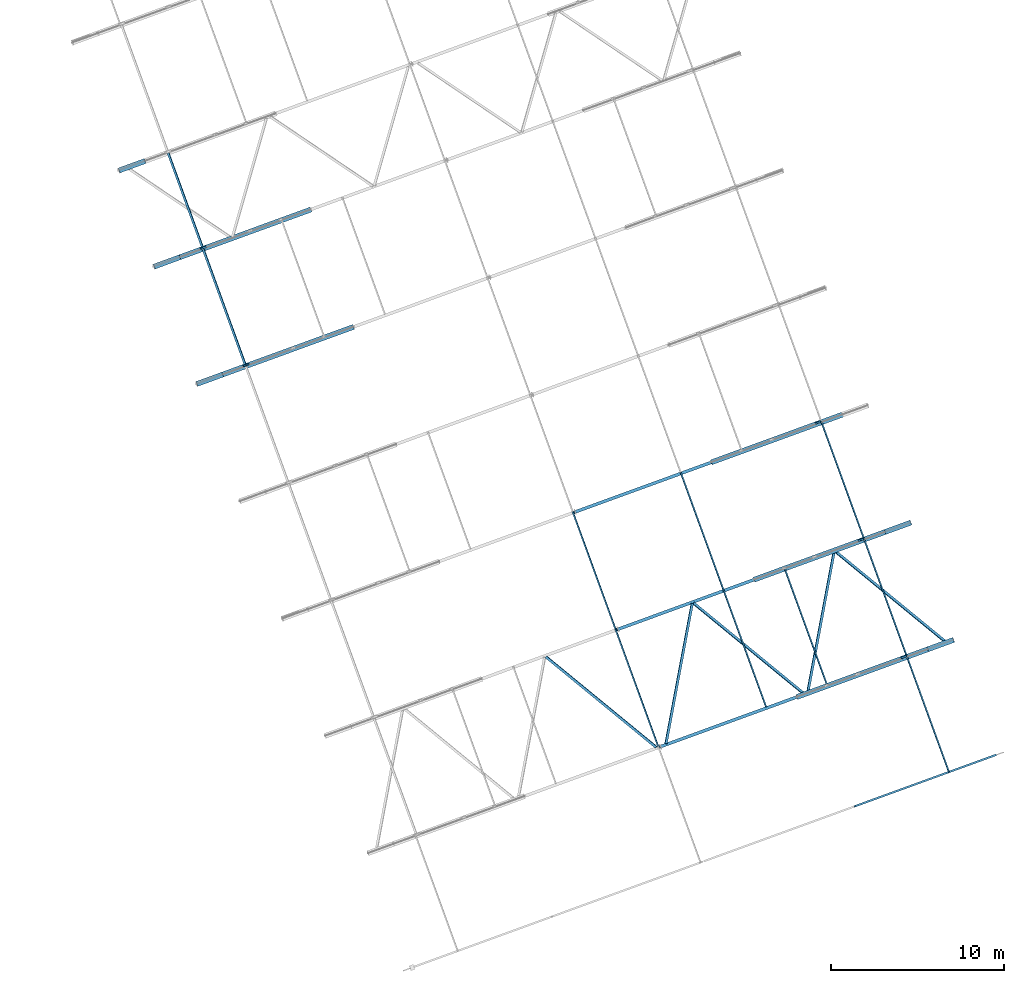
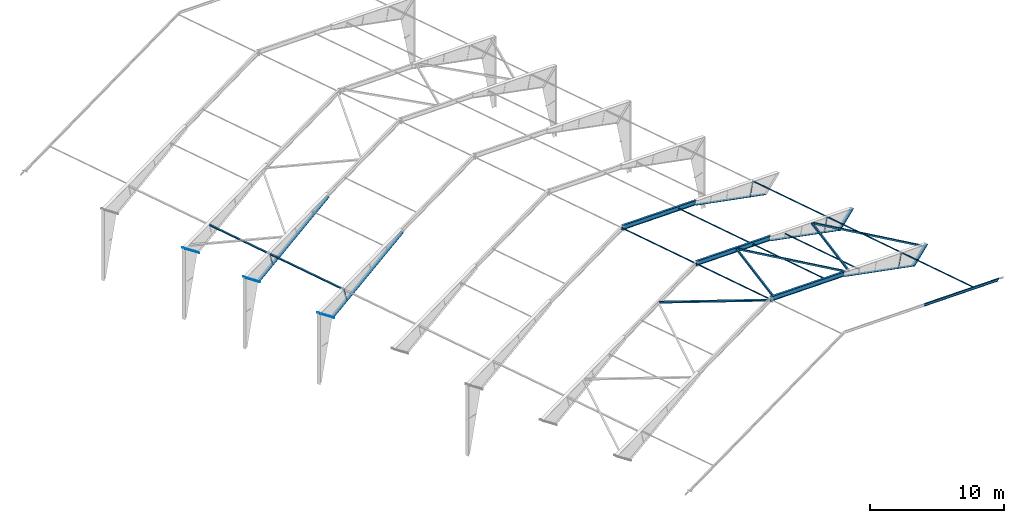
# One storey, part 2 of 17: 20 members, 19 beams, 4 openings, 39 elements without a shape of their own.
"""IFC4 building model written with IfcOpenShell, lengths in millimetres."""

from ifc_helpers import new_model, si_unit, direction, frame, origin_with_axes, place, context, subcontext, project, spatial, line, indexed_curve, outline, extrude, material, element, aggregate, save


model = new_model("IFC4")

# Units and contexts
model_context = context("Model", 3, precision=0.2, world=frame((203566.813, 116264.779, 0.0), z_axis=(0.0, 0.0, 1.0), x_axis=(1.0, 0.0, 0.0)), true_north=direction((-0.9396138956, -0.3422363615)))
body_context = subcontext(model_context, "Body", "Model", "MODEL_VIEW")
ifc_project = project(units=[si_unit("LENGTHUNIT", "METRE", prefix="MILLI"), si_unit("AREAUNIT", "SQUARE_METRE"), si_unit("VOLUMEUNIT", "CUBIC_METRE"), si_unit("MASSUNIT", "GRAM", prefix="KILO"), si_unit("TIMEUNIT", "SECOND"), si_unit("PLANEANGLEUNIT", "RADIAN"), si_unit("SOLIDANGLEUNIT", "STERADIAN"), si_unit("THERMODYNAMICTEMPERATUREUNIT", "DEGREE_CELSIUS"), si_unit("LUMINOUSINTENSITYUNIT", "LUMEN")], contexts=[model_context])

# Site, building, storey
site_placement = place(None, origin_with_axes())
site = spatial("IfcSite", under=ifc_project, at=site_placement, Name="Nobelprojektet", CompositionType="ELEMENT")
building_placement = place(site_placement, origin_with_axes())
building = spatial("IfcBuilding", under=site, at=building_placement, Name="Hall B", CompositionType="ELEMENT")
storey_placement = place(building_placement, frame((0.0, 0.0, 136000.0), z_axis=(0.0, 0.0, 1.0), x_axis=(1.0, 0.0, 0.0)))
storey = spatial("IfcBuildingStorey", under=building, at=storey_placement, Name="Plan_2", CompositionType="ELEMENT", Elevation=136000.0)

# Assembly, member
assembly_1_placement = place(storey_placement, frame((181809.68683, 131983.03909, 3646.88647), z_axis=(-0.5718109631, -0.2082717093, 0.7935081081), x_axis=(-0.7455910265, -0.2715679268, -0.6085596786)))
assembly_1 = element("IfcElementAssembly", 1, at=assembly_1_placement, inside=storey, Name="BEF. STOMME", PredefinedType="NOTDEFINED")
ifc_material = material(Name="S355J2", Category="STEEL")
member_1_placement = place(assembly_1_placement, origin_with_axes())
member_1 = element("IfcMember", 2, at=member_1_placement, material=ifc_material, Name="BEF. STOMME", PredefinedType="NOTDEFINED", context=body_context, shape_type="SolidModel", body=[
    extrude(outline(indexed_curve([(-12.5, -150.0), (12.5, -150.0), (12.5, 150.0), (-12.5, 150.0)], segments=[line(1, 2, 3, 4, 1)])), frame((0.0, 0.0, 0.0), z_axis=(-1.0, 0.0, 0.0), x_axis=(0.0, 0.0, 1.0)), (0.0, 0.0, -1.0), 1980.00858),
])
aggregate(assembly_1, [member_1])

assembly_2_placement = place(storey_placement, frame((181795.39531, 131977.83366, 3666.72647), z_axis=(-0.5718109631, -0.2082717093, 0.7935081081), x_axis=(-0.7455910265, -0.2715679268, -0.6085596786)))
assembly_2 = element("IfcElementAssembly", 3, at=assembly_2_placement, inside=storey, Name="BEF. STOMME", PredefinedType="NOTDEFINED")
member_2_placement = place(assembly_2_placement, origin_with_axes())
member_2 = element("IfcMember", 4, at=member_2_placement, material=ifc_material, Name="BEF. STOMME", PredefinedType="NOTDEFINED", context=body_context, shape_type="SolidModel", body=[
    extrude(outline(indexed_curve([(-12.5, -150.0), (12.5, -150.0), (12.5, 150.0), (-12.5, 150.0)], segments=[line(1, 2, 3, 4, 1)])), frame((0.0, 0.0, 0.0), z_axis=(-1.0, 0.0, 0.0), x_axis=(0.0, 0.0, 1.0)), (0.0, 0.0, -1.0), 1980.00858),
])
aggregate(assembly_2, [member_2])

assembly_3_placement = place(storey_placement, frame((180334.37257, 131445.68279, 2495.62175), z_axis=(0.3620433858, 0.131867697, 0.9227868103), x_axis=(-0.8670630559, -0.315811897, 0.385310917)))
assembly_3 = element("IfcElementAssembly", 5, at=assembly_3_placement, inside=storey, Name="BEF. STOMME", PredefinedType="NOTDEFINED")
member_3_placement = place(assembly_3_placement, origin_with_axes())
member_3 = element("IfcMember", 6, at=member_3_placement, material=ifc_material, Name="BEF. STOMME", PredefinedType="NOTDEFINED", context=body_context, shape_type="SolidModel", body=[
    extrude(outline(indexed_curve([(-10.0, -150.0), (10.0, -150.0), (10.0, 150.0), (-10.0, 150.0)], segments=[line(1, 2, 3, 4, 1)])), frame((0.0, 0.0, 0.0), z_axis=(-1.0, 0.0, 0.0), x_axis=(0.0, 0.0, 1.0)), (0.0, 0.0, -1.0), 8726.68705),
])
aggregate(assembly_3, [member_3])

# Assembly, beam, voiding feature
assembly_4_placement = place(storey_placement, frame((172815.23266, 128706.97329, 6043.94632), z_axis=(0.3422371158, -0.9396136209, 1.3e-09), x_axis=(-0.9075966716, -0.3305755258, 0.2588206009)))
assembly_4 = element("IfcElementAssembly", 7, at=assembly_4_placement, inside=storey, Name="BEF. STOMME", PredefinedType="NOTDEFINED")
beam_1_placement = place(assembly_4_placement, origin_with_axes())
beam_1 = element("IfcBeam", 8, at=beam_1_placement, material=ifc_material, Name="BEF. STOMME", PredefinedType="NOTDEFINED", context=body_context, shape_type="SolidModel", body=[
    extrude(outline(indexed_curve([(-90.0, -200.0), (90.0, -200.0), (90.0, -186.5), (4.3, -186.5), (4.3, 186.5), (90.0, 186.5), (90.0, 200.0), (-90.0, 200.0), (-90.0, 186.5), (-4.3, 186.5), (-4.3, -186.5), (-90.0, -186.5)], segments=[line(1, 2, 3, 4, 5, 6, 7, 8, 9, 10, 11, 12, 1)])), frame((0.0, 0.0, 0.0), z_axis=(-1.0, 0.0, 0.0), x_axis=(0.0, 0.0, 1.0)), (0.0, 0.0, -1.0), 8807.09025),
])
voiding_feature_1_placement = place(beam_1_placement, frame((-95082.87676, -23309.9559, -70602.08247), z_axis=(0.9075574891, 0.2431808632, -0.3423484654), x_axis=(0.252427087, 0.3355889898, 0.9075574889)))
element("IfcVoidingFeature", 9, at=voiding_feature_1_placement, cuts=beam_1, Name="CUTPART", PredefinedType="HOLE", context=body_context, shape_type="SolidModel", body=[
    extrude(outline(indexed_curve([(0.0, 0.0), (180.00355, 0.0), (71.46317, 405.07559), (0.0, 400.0)], segments=[line(1, 2, 3, 4, 1)])), frame((0.0, 0.0, 92.5), z_axis=(0.0, 0.0, 1.0), x_axis=(1.0, 0.0, 0.0)), (0.0, 0.0, -1.0), 185.0),
])
aggregate(assembly_4, [beam_1])

# Assembly, member
assembly_5_placement = place(storey_placement, frame((178779.73957, 130932.64945, 3191.07202), z_axis=(0.9075974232, 0.3305758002, -0.2588176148), x_axis=(0.2431885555, 0.0885769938, 0.9659262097)))
assembly_5 = element("IfcElementAssembly", 10, at=assembly_5_placement, inside=storey, Name="BEF. STOMME", PredefinedType="NOTDEFINED")
member_4_placement = place(assembly_5_placement, origin_with_axes())
member_4 = element("IfcMember", 11, at=member_4_placement, material=ifc_material, Name="BEF. STOMME", PredefinedType="NOTDEFINED", context=body_context, shape_type="SolidModel", body=[
    extrude(outline(indexed_curve([(-7.5, -50.0), (7.5, -50.0), (7.5, 50.0), (-7.5, 50.0)], segments=[line(1, 2, 3, 4, 1)])), frame((0.0, 0.0, 0.0), z_axis=(-1.0, 0.0, 0.0), x_axis=(0.0, 0.0, 1.0)), (0.0, 0.0, -1.0), 1288.01813),
])
aggregate(assembly_5, [member_4])

assembly_6_placement = place(storey_placement, frame((179345.57955, 138748.25741, 3646.88647), z_axis=(-0.5718109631, -0.2082717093, 0.7935081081), x_axis=(-0.7455910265, -0.2715679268, -0.6085596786)))
assembly_6 = element("IfcElementAssembly", 12, at=assembly_6_placement, inside=storey, Name="BEF. STOMME", PredefinedType="NOTDEFINED")
member_5_placement = place(assembly_6_placement, origin_with_axes())
member_5 = element("IfcMember", 13, at=member_5_placement, material=ifc_material, Name="BEF. STOMME", PredefinedType="NOTDEFINED", context=body_context, shape_type="SolidModel", body=[
    extrude(outline(indexed_curve([(-12.5, -150.0), (12.5, -150.0), (12.5, 150.0), (-12.5, 150.0)], segments=[line(1, 2, 3, 4, 1)])), frame((0.0, 0.0, 0.0), z_axis=(-1.0, 0.0, 0.0), x_axis=(0.0, 0.0, 1.0)), (0.0, 0.0, -1.0), 1980.00858),
])
aggregate(assembly_6, [member_5])

assembly_7_placement = place(storey_placement, frame((179331.28802, 138743.05199, 3666.72647), z_axis=(-0.5718109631, -0.2082717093, 0.7935081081), x_axis=(-0.7455910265, -0.2715679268, -0.6085596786)))
assembly_7 = element("IfcElementAssembly", 14, at=assembly_7_placement, inside=storey, Name="BEF. STOMME", PredefinedType="NOTDEFINED")
member_6_placement = place(assembly_7_placement, origin_with_axes())
member_6 = element("IfcMember", 15, at=member_6_placement, material=ifc_material, Name="BEF. STOMME", PredefinedType="NOTDEFINED", context=body_context, shape_type="SolidModel", body=[
    extrude(outline(indexed_curve([(-12.5, -150.0), (12.5, -150.0), (12.5, 150.0), (-12.5, 150.0)], segments=[line(1, 2, 3, 4, 1)])), frame((0.0, 0.0, 0.0), z_axis=(-1.0, 0.0, 0.0), x_axis=(0.0, 0.0, 1.0)), (0.0, 0.0, -1.0), 1980.00858),
])
aggregate(assembly_7, [member_6])

assembly_8_placement = place(storey_placement, frame((177870.26529, 138210.90112, 2495.62175), z_axis=(0.3620433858, 0.131867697, 0.9227868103), x_axis=(-0.8670630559, -0.315811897, 0.385310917)))
assembly_8 = element("IfcElementAssembly", 16, at=assembly_8_placement, inside=storey, Name="BEF. STOMME", PredefinedType="NOTDEFINED")
member_7_placement = place(assembly_8_placement, origin_with_axes())
member_7 = element("IfcMember", 17, at=member_7_placement, material=ifc_material, Name="BEF. STOMME", PredefinedType="NOTDEFINED", context=body_context, shape_type="SolidModel", body=[
    extrude(outline(indexed_curve([(-10.0, -150.0), (10.0, -150.0), (10.0, 150.0), (-10.0, 150.0)], segments=[line(1, 2, 3, 4, 1)])), frame((0.0, 0.0, 0.0), z_axis=(-1.0, 0.0, 0.0), x_axis=(0.0, 0.0, 1.0)), (0.0, 0.0, -1.0), 8726.68705),
])
aggregate(assembly_8, [member_7])

# Assembly, beam, voiding feature
assembly_9_placement = place(storey_placement, frame((170351.12538, 135472.19161, 6043.94632), z_axis=(0.3422371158, -0.9396136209, 1.3e-09), x_axis=(-0.9075966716, -0.3305755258, 0.2588206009)))
assembly_9 = element("IfcElementAssembly", 18, at=assembly_9_placement, inside=storey, Name="BEF. STOMME", PredefinedType="NOTDEFINED")
beam_2_placement = place(assembly_9_placement, origin_with_axes())
beam_2 = element("IfcBeam", 19, at=beam_2_placement, material=ifc_material, Name="BEF. STOMME", PredefinedType="NOTDEFINED", context=body_context, shape_type="SolidModel", body=[
    extrude(outline(indexed_curve([(-90.0, -200.0), (90.0, -200.0), (90.0, -186.5), (4.3, -186.5), (4.3, 186.5), (90.0, 186.5), (90.0, 200.0), (-90.0, 200.0), (-90.0, 186.5), (-4.3, 186.5), (-4.3, -186.5), (-90.0, -186.5)], segments=[line(1, 2, 3, 4, 5, 6, 7, 8, 9, 10, 11, 12, 1)])), frame((0.0, 0.0, 0.0), z_axis=(-1.0, 0.0, 0.0), x_axis=(0.0, 0.0, 1.0)), (0.0, 0.0, -1.0), 8807.09025),
])
voiding_feature_2_placement = place(beam_2_placement, frame((-101617.29069, -25060.8581, -60937.17352), z_axis=(0.9075574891, 0.2431808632, -0.3423484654), x_axis=(0.252427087, 0.3355889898, 0.9075574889)))
element("IfcVoidingFeature", 20, at=voiding_feature_2_placement, cuts=beam_2, Name="CUTPART", PredefinedType="HOLE", context=body_context, shape_type="SolidModel", body=[
    extrude(outline(indexed_curve([(0.0, 0.0), (180.00355, 0.0), (71.46317, 405.07559), (0.0, 400.0)], segments=[line(1, 2, 3, 4, 1)])), frame((0.0, 0.0, 92.5), z_axis=(0.0, 0.0, 1.0), x_axis=(1.0, 0.0, 0.0)), (0.0, 0.0, -1.0), 185.0),
])
aggregate(assembly_9, [beam_2])

# Assembly, member
assembly_10_placement = place(storey_placement, frame((176315.63229, 137697.86778, 3191.07202), z_axis=(0.9075974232, 0.3305758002, -0.2588176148), x_axis=(0.2431885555, 0.0885769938, 0.9659262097)))
assembly_10 = element("IfcElementAssembly", 21, at=assembly_10_placement, inside=storey, Name="BEF. STOMME", PredefinedType="NOTDEFINED")
member_8_placement = place(assembly_10_placement, origin_with_axes())
member_8 = element("IfcMember", 22, at=member_8_placement, material=ifc_material, Name="BEF. STOMME", PredefinedType="NOTDEFINED", context=body_context, shape_type="SolidModel", body=[
    extrude(outline(indexed_curve([(-7.5, -50.0), (7.5, -50.0), (7.5, 50.0), (-7.5, 50.0)], segments=[line(1, 2, 3, 4, 1)])), frame((0.0, 0.0, 0.0), z_axis=(-1.0, 0.0, 0.0), x_axis=(0.0, 0.0, 1.0)), (0.0, 0.0, -1.0), 1288.01813),
])
aggregate(assembly_10, [member_8])

assembly_11_placement = place(storey_placement, frame((175406.15801, 144976.11944, 2495.62175), z_axis=(0.3620433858, 0.131867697, 0.9227868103), x_axis=(-0.8670630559, -0.315811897, 0.385310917)))
assembly_11 = element("IfcElementAssembly", 23, at=assembly_11_placement, inside=storey, Name="BEF. STOMME", PredefinedType="NOTDEFINED")
member_9_placement = place(assembly_11_placement, origin_with_axes())
member_9 = element("IfcMember", 24, at=member_9_placement, material=ifc_material, Name="BEF. STOMME", PredefinedType="NOTDEFINED", context=body_context, shape_type="SolidModel", body=[
    extrude(outline(indexed_curve([(-10.0, -150.0), (10.0, -150.0), (10.0, 150.0), (-10.0, 150.0)], segments=[line(1, 2, 3, 4, 1)])), frame((0.0, 0.0, 0.0), z_axis=(-1.0, 0.0, 0.0), x_axis=(0.0, 0.0, 1.0)), (0.0, 0.0, -1.0), 8726.68705),
])
aggregate(assembly_11, [member_9])

# Assembly, beam, voiding feature
assembly_12_placement = place(storey_placement, frame((167887.01809, 142237.40993, 6043.94632), z_axis=(0.3422371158, -0.9396136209, 1.3e-09), x_axis=(-0.9075966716, -0.3305755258, 0.2588206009)))
assembly_12 = element("IfcElementAssembly", 25, at=assembly_12_placement, inside=storey, Name="BEF. STOMME", PredefinedType="NOTDEFINED")
beam_3_placement = place(assembly_12_placement, origin_with_axes())
beam_3 = element("IfcBeam", 26, at=beam_3_placement, material=ifc_material, Name="BEF. STOMME", PredefinedType="NOTDEFINED", context=body_context, shape_type="SolidModel", body=[
    extrude(outline(indexed_curve([(-90.0, -200.0), (90.0, -200.0), (90.0, -186.5), (4.3, -186.5), (4.3, 186.5), (90.0, 186.5), (90.0, 200.0), (-90.0, 200.0), (-90.0, 186.5), (-4.3, 186.5), (-4.3, -186.5), (-90.0, -186.5)], segments=[line(1, 2, 3, 4, 5, 6, 7, 8, 9, 10, 11, 12, 1)])), frame((0.0, 0.0, 0.0), z_axis=(-1.0, 0.0, 0.0), x_axis=(0.0, 0.0, 1.0)), (0.0, 0.0, -1.0), 8807.09025),
])
voiding_feature_3_placement = place(beam_3_placement, frame((-108151.70461, -26811.76031, -51272.26457), z_axis=(0.9075574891, 0.2431808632, -0.3423484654), x_axis=(0.252427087, 0.3355889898, 0.9075574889)))
element("IfcVoidingFeature", 27, at=voiding_feature_3_placement, cuts=beam_3, Name="CUTPART", PredefinedType="HOLE", context=body_context, shape_type="SolidModel", body=[
    extrude(outline(indexed_curve([(0.0, 0.0), (180.00355, 0.0), (71.46317, 405.07559), (0.0, 400.0)], segments=[line(1, 2, 3, 4, 1)])), frame((0.0, 0.0, 92.5), z_axis=(0.0, 0.0, 1.0), x_axis=(1.0, 0.0, 0.0)), (0.0, 0.0, -1.0), 185.0),
])
aggregate(assembly_12, [beam_3])

# Assembly, member
assembly_13_placement = place(storey_placement, frame((173851.52501, 144463.0861, 3191.07202), z_axis=(0.9075974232, 0.3305758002, -0.2588176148), x_axis=(0.2431885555, 0.0885769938, 0.9659262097)))
assembly_13 = element("IfcElementAssembly", 28, at=assembly_13_placement, inside=storey, Name="BEF. STOMME", PredefinedType="NOTDEFINED")
member_10_placement = place(assembly_13_placement, origin_with_axes())
member_10 = element("IfcMember", 29, at=member_10_placement, material=ifc_material, Name="BEF. STOMME", PredefinedType="NOTDEFINED", context=body_context, shape_type="SolidModel", body=[
    extrude(outline(indexed_curve([(-7.5, -50.0), (7.5, -50.0), (7.5, 50.0), (-7.5, 50.0)], segments=[line(1, 2, 3, 4, 1)])), frame((0.0, 0.0, 0.0), z_axis=(-1.0, 0.0, 0.0), x_axis=(0.0, 0.0, 1.0)), (0.0, 0.0, -1.0), 1288.01813),
])
aggregate(assembly_13, [member_10])

# Assembly, beam, voiding feature
assembly_14_placement = place(storey_placement, frame((184243.8005, 125350.49773, 3578.63666), z_axis=(0.3422371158, -0.9396136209, 1.3e-09), x_axis=(-0.9075966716, -0.3305755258, 0.2588206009)))
assembly_14 = element("IfcElementAssembly", 30, at=assembly_14_placement, inside=storey, Name="BEF. STOMME", PredefinedType="NOTDEFINED")
beam_4_placement = place(assembly_14_placement, origin_with_axes())
beam_4 = element("IfcBeam", 31, at=beam_4_placement, material=ifc_material, Name="BEF. STOMME", PredefinedType="NOTDEFINED", context=body_context, shape_type="SolidModel", body=[
    extrude(outline(indexed_curve([(-55.0, -110.0), (55.0, -110.0), (55.0, -100.8), (2.95, -100.8), (2.95, 100.8), (55.0, 100.8), (55.0, 110.0), (-55.0, 110.0), (-55.0, 100.8), (-2.95, 100.8), (-2.95, -100.8), (-55.0, -100.8)], segments=[line(1, 2, 3, 4, 5, 6, 7, 8, 9, 10, 11, 12, 1)])), frame((0.0, 0.0, 0.0), z_axis=(-1.0, 0.0, 0.0), x_axis=(0.0, 0.0, 1.0)), (0.0, 0.0, -1.0), 8966.09461),
])
voiding_feature_4_placement = place(beam_4_placement, frame((0.00035, 110.0, 0.00069), z_axis=(0.0, 0.0, -1.0), x_axis=(1.0, 0.0, 0.0)))
element("IfcVoidingFeature", 32, at=voiding_feature_4_placement, cuts=beam_4, Name="CUTPART", PredefinedType="HOLE", context=body_context, shape_type="SolidModel", body=[
    extrude(outline(indexed_curve([(0.0, 0.0), (168.81121, 0.0), (0.0, 220.0)], segments=[line(1, 2, 3, 1)])), frame((0.0, 0.0, 57.5), z_axis=(0.0, 0.0, 1.0), x_axis=(1.0, 0.0, 0.0)), (0.0, 0.0, -1.0), 115.0),
])
aggregate(assembly_14, [beam_4])

# Assembly, beam
assembly_15_placement = place(storey_placement, frame((181537.72344, 124364.85853, 4350.33212), z_axis=(-0.2431901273, -0.0885768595, -0.9659258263), x_axis=(-0.3422371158, 0.9396136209, 1.3e-09)))
assembly_15 = element("IfcElementAssembly", 33, at=assembly_15_placement, inside=storey, Name="BEF. STOMME", PredefinedType="NOTDEFINED")
beam_5_placement = place(assembly_15_placement, origin_with_axes())
beam_5 = element("IfcBeam", 34, at=beam_5_placement, material=ifc_material, Name="BEF. STOMME", PredefinedType="NOTDEFINED", context=body_context, shape_type="SolidModel", body=[
    extrude(outline(indexed_curve([(-40.0, -40.0), (40.0, -40.0), (40.0, 40.0), (-40.0, 40.0)], segments=[line(1, 2, 3, 4, 1)]), holes=[indexed_curve([(-36.0, -36.0), (-36.0, 36.0), (36.0, 36.0), (36.0, -36.0)], segments=[line(1, 2, 3, 4, 1)])]), frame((0.0, 0.0, 0.0), z_axis=(-1.0, 0.0, 0.0), x_axis=(0.0, 0.0, 1.0)), (0.0, 0.0, -1.0), 7199.99997),
])
aggregate(assembly_15, [beam_5])

assembly_16_placement = place(storey_placement, frame((164773.56168, 125841.72264, 8316.31212), z_axis=(-0.2431885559, -0.088576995, 0.9659262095), x_axis=(-0.3422371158, 0.9396136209, 1.3e-09)))
assembly_16 = element("IfcElementAssembly", 35, at=assembly_16_placement, inside=storey, Name="BEF. STOMME", PredefinedType="NOTDEFINED")
beam_6_placement = place(assembly_16_placement, origin_with_axes())
beam_6 = element("IfcBeam", 36, at=beam_6_placement, material=ifc_material, Name="BEF. STOMME", PredefinedType="NOTDEFINED", context=body_context, shape_type="SolidModel", body=[
    extrude(outline(indexed_curve([(-40.0, -40.0), (40.0, -40.0), (40.0, 40.0), (-40.0, 40.0)], segments=[line(1, 2, 3, 4, 1)]), holes=[indexed_curve([(-36.0, -36.0), (-36.0, 36.0), (36.0, 36.0), (36.0, -36.0)], segments=[line(1, 2, 3, 4, 1)])]), frame((0.0, 0.0, 0.0), z_axis=(-1.0, 0.0, 0.0), x_axis=(0.0, 0.0, 1.0)), (0.0, 0.0, -1.0), 7199.99997),
])
aggregate(assembly_16, [beam_6])

assembly_17_placement = place(storey_placement, frame((179099.28399, 131059.60558, 4350.33212), z_axis=(-0.2431901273, -0.0885768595, -0.9659258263), x_axis=(-0.3422371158, 0.9396136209, 1.3e-09)))
assembly_17 = element("IfcElementAssembly", 37, at=assembly_17_placement, inside=storey, Name="BEF. STOMME", PredefinedType="NOTDEFINED")
beam_7_placement = place(assembly_17_placement, origin_with_axes())
beam_7 = element("IfcBeam", 38, at=beam_7_placement, material=ifc_material, Name="BEF. STOMME", PredefinedType="NOTDEFINED", context=body_context, shape_type="SolidModel", body=[
    extrude(outline(indexed_curve([(-40.0, -40.0), (40.0, -40.0), (40.0, 40.0), (-40.0, 40.0)], segments=[line(1, 2, 3, 4, 1)]), holes=[indexed_curve([(-36.0, -36.0), (-36.0, 36.0), (36.0, 36.0), (36.0, -36.0)], segments=[line(1, 2, 3, 4, 1)])]), frame((0.0, 0.0, 0.0), z_axis=(-1.0, 0.0, 0.0), x_axis=(0.0, 0.0, 1.0)), (0.0, 0.0, -1.0), 7199.99997),
])
aggregate(assembly_17, [beam_7])

assembly_18_placement = place(storey_placement, frame((170997.90074, 128108.8246, 6505.31233), z_axis=(0.9075974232, 0.3305758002, -0.2588176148), x_axis=(-0.3422371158, 0.9396136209, 1.3e-09)))
assembly_18 = element("IfcElementAssembly", 39, at=assembly_18_placement, inside=storey, Name="BEF. STOMME", PredefinedType="NOTDEFINED")
beam_8_placement = place(assembly_18_placement, origin_with_axes())
beam_8 = element("IfcBeam", 40, at=beam_8_placement, material=ifc_material, Name="BEF. STOMME", PredefinedType="NOTDEFINED", context=body_context, shape_type="SolidModel", body=[
    extrude(outline(indexed_curve([(-40.0, -40.0), (40.0, -40.0), (40.0, 40.0), (-40.0, 40.0)], segments=[line(1, 2, 3, 4, 1)]), holes=[indexed_curve([(-36.0, -36.0), (-36.0, 36.0), (36.0, 36.0), (36.0, -36.0)], segments=[line(1, 2, 3, 4, 1)])]), frame((0.0, 0.0, 0.0), z_axis=(-1.0, 0.0, 0.0), x_axis=(0.0, 0.0, 1.0)), (0.0, 0.0, -1.0), 7199.99997),
])
aggregate(assembly_18, [beam_8])

assembly_19_placement = place(storey_placement, frame((174508.1281, 129387.36086, 5452.54233), z_axis=(0.9075974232, 0.3305758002, -0.2588176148), x_axis=(-0.3422371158, 0.9396136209, 1.3e-09)))
assembly_19 = element("IfcElementAssembly", 41, at=assembly_19_placement, inside=storey, Name="BEF. STOMME", PredefinedType="NOTDEFINED")
beam_9_placement = place(assembly_19_placement, origin_with_axes())
beam_9 = element("IfcBeam", 42, at=beam_9_placement, material=ifc_material, Name="BEF. STOMME", PredefinedType="NOTDEFINED", context=body_context, shape_type="SolidModel", body=[
    extrude(outline(indexed_curve([(-40.0, -40.0), (40.0, -40.0), (40.0, 40.0), (-40.0, 40.0)], segments=[line(1, 2, 3, 4, 1)]), holes=[indexed_curve([(-36.0, -36.0), (-36.0, 36.0), (36.0, 36.0), (36.0, -36.0)], segments=[line(1, 2, 3, 4, 1)])]), frame((0.0, 0.0, 0.0), z_axis=(-1.0, 0.0, 0.0), x_axis=(0.0, 0.0, 1.0)), (0.0, 0.0, -1.0), 7199.99997),
])
aggregate(assembly_19, [beam_9])

assembly_20_placement = place(storey_placement, frame((140975.39814, 147824.57248, 4144.4785), z_axis=(-0.2431885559, -0.088576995, 0.9659262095), x_axis=(-0.3422371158, 0.9396136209, 1.3e-09)))
assembly_20 = element("IfcElementAssembly", 43, at=assembly_20_placement, inside=storey, Name="BEF. STOMME", PredefinedType="NOTDEFINED")
beam_10_placement = place(assembly_20_placement, origin_with_axes())
beam_10 = element("IfcBeam", 44, at=beam_10_placement, material=ifc_material, Name="BEF. STOMME", PredefinedType="NOTDEFINED", context=body_context, shape_type="SolidModel", body=[
    extrude(outline(indexed_curve([(-60.0, -60.0), (60.0, -60.0), (60.0, 60.0), (-60.0, 60.0)], segments=[line(1, 2, 3, 4, 1)]), holes=[indexed_curve([(-55.0, -55.0), (-55.0, 55.0), (55.0, 55.0), (55.0, -55.0)], segments=[line(1, 2, 3, 4, 1)])]), frame((0.0, 0.0, 0.0), z_axis=(-1.0, 0.0, 0.0), x_axis=(0.0, 0.0, 1.0)), (0.0, 0.0, -1.0), 7199.99997),
])
aggregate(assembly_20, [beam_10])

assembly_21_placement = place(storey_placement, frame((162309.45444, 132606.94071, 8316.31212), z_axis=(-0.2431885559, -0.088576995, 0.9659262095), x_axis=(-0.3422371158, 0.9396136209, 1.3e-09)))
assembly_21 = element("IfcElementAssembly", 45, at=assembly_21_placement, inside=storey, Name="BEF. STOMME", PredefinedType="NOTDEFINED")
beam_11_placement = place(assembly_21_placement, origin_with_axes())
beam_11 = element("IfcBeam", 46, at=beam_11_placement, material=ifc_material, Name="BEF. STOMME", PredefinedType="NOTDEFINED", context=body_context, shape_type="SolidModel", body=[
    extrude(outline(indexed_curve([(-40.0, -40.0), (40.0, -40.0), (40.0, 40.0), (-40.0, 40.0)], segments=[line(1, 2, 3, 4, 1)]), holes=[indexed_curve([(-36.0, -36.0), (-36.0, 36.0), (36.0, 36.0), (36.0, -36.0)], segments=[line(1, 2, 3, 4, 1)])]), frame((0.0, 0.0, 0.0), z_axis=(-1.0, 0.0, 0.0), x_axis=(0.0, 0.0, 1.0)), (0.0, 0.0, -1.0), 7199.99997),
])
aggregate(assembly_21, [beam_11])

assembly_22_placement = place(storey_placement, frame((176635.17675, 137824.82365, 4350.33212), z_axis=(-0.2431901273, -0.0885768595, -0.9659258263), x_axis=(-0.3422371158, 0.9396136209, 1.3e-09)))
assembly_22 = element("IfcElementAssembly", 47, at=assembly_22_placement, inside=storey, Name="BEF. STOMME", PredefinedType="NOTDEFINED")
beam_12_placement = place(assembly_22_placement, origin_with_axes())
beam_12 = element("IfcBeam", 48, at=beam_12_placement, material=ifc_material, Name="BEF. STOMME", PredefinedType="NOTDEFINED", context=body_context, shape_type="SolidModel", body=[
    extrude(outline(indexed_curve([(-40.0, -40.0), (40.0, -40.0), (40.0, 40.0), (-40.0, 40.0)], segments=[line(1, 2, 3, 4, 1)]), holes=[indexed_curve([(-36.0, -36.0), (-36.0, 36.0), (36.0, 36.0), (36.0, -36.0)], segments=[line(1, 2, 3, 4, 1)])]), frame((0.0, 0.0, 0.0), z_axis=(-1.0, 0.0, 0.0), x_axis=(0.0, 0.0, 1.0)), (0.0, 0.0, -1.0), 7199.99997),
])
aggregate(assembly_22, [beam_12])

assembly_23_placement = place(storey_placement, frame((168533.79351, 134874.04267, 6505.31233), z_axis=(0.9075974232, 0.3305758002, -0.2588176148), x_axis=(-0.3422371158, 0.9396136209, 1.3e-09)))
assembly_23 = element("IfcElementAssembly", 49, at=assembly_23_placement, inside=storey, Name="BEF. STOMME", PredefinedType="NOTDEFINED")
beam_13_placement = place(assembly_23_placement, origin_with_axes())
beam_13 = element("IfcBeam", 50, at=beam_13_placement, material=ifc_material, Name="BEF. STOMME", PredefinedType="NOTDEFINED", context=body_context, shape_type="SolidModel", body=[
    extrude(outline(indexed_curve([(-40.0, -40.0), (40.0, -40.0), (40.0, 40.0), (-40.0, 40.0)], segments=[line(1, 2, 3, 4, 1)]), holes=[indexed_curve([(-36.0, -36.0), (-36.0, 36.0), (36.0, 36.0), (36.0, -36.0)], segments=[line(1, 2, 3, 4, 1)])]), frame((0.0, 0.0, 0.0), z_axis=(-1.0, 0.0, 0.0), x_axis=(0.0, 0.0, 1.0)), (0.0, 0.0, -1.0), 7199.99997),
])
aggregate(assembly_23, [beam_13])

assembly_24_placement = place(storey_placement, frame((138511.29091, 154589.79055, 4144.4785), z_axis=(-0.2431885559, -0.088576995, 0.9659262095), x_axis=(-0.3422371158, 0.9396136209, 1.3e-09)))
assembly_24 = element("IfcElementAssembly", 51, at=assembly_24_placement, inside=storey, Name="BEF. STOMME", PredefinedType="NOTDEFINED")
beam_14_placement = place(assembly_24_placement, origin_with_axes())
beam_14 = element("IfcBeam", 52, at=beam_14_placement, material=ifc_material, Name="BEF. STOMME", PredefinedType="NOTDEFINED", context=body_context, shape_type="SolidModel", body=[
    extrude(outline(indexed_curve([(-60.0, -60.0), (60.0, -60.0), (60.0, 60.0), (-60.0, 60.0)], segments=[line(1, 2, 3, 4, 1)]), holes=[indexed_curve([(-55.0, -55.0), (-55.0, 55.0), (55.0, 55.0), (55.0, -55.0)], segments=[line(1, 2, 3, 4, 1)])]), frame((0.0, 0.0, 0.0), z_axis=(-1.0, 0.0, 0.0), x_axis=(0.0, 0.0, 1.0)), (0.0, 0.0, -1.0), 5899.99997),
])
aggregate(assembly_24, [beam_14])

assembly_25_placement = place(storey_placement, frame((164657.31316, 125794.3141, 8265.2484), z_axis=(0.6030886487, 0.7754631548, 0.186925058), x_axis=(-0.7660473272, 0.6283815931, -0.135307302)))
assembly_25 = element("IfcElementAssembly", 53, at=assembly_25_placement, inside=storey, Name="BEFINTLIG", PredefinedType="NOTDEFINED")
beam_15_placement = place(assembly_25_placement, origin_with_axes())
beam_15 = element("IfcBeam", 54, at=beam_15_placement, material=ifc_material, Name="BEFINTLIG", PredefinedType="NOTDEFINED", context=body_context, shape_type="SolidModel", body=[
    extrude(outline(indexed_curve([(-70.0, -70.0), (70.0, -70.0), (70.0, 70.0), (-70.0, 70.0)], segments=[line(1, 2, 3, 4, 1)]), holes=[indexed_curve([(-65.0, -65.0), (-65.0, 65.0), (65.0, 65.0), (65.0, -65.0)], segments=[line(1, 2, 3, 4, 1)])]), frame((0.0, 0.0, 0.0), z_axis=(-1.0, 0.0, 0.0), x_axis=(0.0, 0.0, 1.0)), (0.0, 0.0, -1.0), 8292.75428),
])
aggregate(assembly_25, [beam_15])

assembly_26_placement = place(storey_placement, frame((181341.65741, 131871.28205, 3677.73787), z_axis=(0.5861066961, 0.7692777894, -0.2543435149), x_axis=(-0.7660473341, 0.6283815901, 0.135307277)))
assembly_26 = element("IfcElementAssembly", 55, at=assembly_26_placement, inside=storey, Name="BEFINTLIG", PredefinedType="NOTDEFINED")
beam_16_placement = place(assembly_26_placement, origin_with_axes())
beam_16 = element("IfcBeam", 56, at=beam_16_placement, material=ifc_material, Name="BEFINTLIG", PredefinedType="NOTDEFINED", context=body_context, shape_type="SolidModel", body=[
    extrude(outline(indexed_curve([(-70.0, -70.0), (70.0, -70.0), (70.0, 70.0), (-70.0, 70.0)], segments=[line(1, 2, 3, 4, 1)]), holes=[indexed_curve([(-65.0, -65.0), (-65.0, 65.0), (65.0, 65.0), (65.0, -65.0)], segments=[line(1, 2, 3, 4, 1)])]), frame((0.0, 0.0, 0.0), z_axis=(-1.0, 0.0, 0.0), x_axis=(0.0, 0.0, 1.0)), (0.0, 0.0, -1.0), 8292.75428),
])
aggregate(assembly_26, [beam_16])

assembly_27_placement = place(storey_placement, frame((173399.3421, 128978.43863, 5942.6484), z_axis=(0.960546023, -0.2059377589, -0.1869250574), x_axis=(0.1824606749, 0.9738583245, -0.1353073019)))
assembly_27 = element("IfcElementAssembly", 57, at=assembly_27_placement, inside=storey, Name="BEFINTLIG", PredefinedType="NOTDEFINED")
beam_17_placement = place(assembly_27_placement, origin_with_axes())
beam_17 = element("IfcBeam", 58, at=beam_17_placement, material=ifc_material, Name="BEFINTLIG", PredefinedType="NOTDEFINED", context=body_context, shape_type="SolidModel", body=[
    extrude(outline(indexed_curve([(-70.0, -70.0), (70.0, -70.0), (70.0, 70.0), (-70.0, 70.0)], segments=[line(1, 2, 3, 4, 1)]), holes=[indexed_curve([(-65.0, -65.0), (-65.0, 65.0), (65.0, 65.0), (65.0, -65.0)], segments=[line(1, 2, 3, 4, 1)])]), frame((0.0, 0.0, 0.0), z_axis=(-1.0, 0.0, 0.0), x_axis=(0.0, 0.0, 1.0)), (0.0, 0.0, -1.0), 8292.75428),
])
aggregate(assembly_27, [beam_17])

assembly_28_placement = place(storey_placement, frame((173160.7329, 128891.52958, 6000.33787), z_axis=(0.5861066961, 0.7692777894, -0.2543435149), x_axis=(-0.7660473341, 0.6283815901, 0.135307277)))
assembly_28 = element("IfcElementAssembly", 59, at=assembly_28_placement, inside=storey, Name="BEFINTLIG", PredefinedType="NOTDEFINED")
beam_18_placement = place(assembly_28_placement, origin_with_axes())
beam_18 = element("IfcBeam", 60, at=beam_18_placement, material=ifc_material, Name="BEFINTLIG", PredefinedType="NOTDEFINED", context=body_context, shape_type="SolidModel", body=[
    extrude(outline(indexed_curve([(-70.0, -70.0), (70.0, -70.0), (70.0, 70.0), (-70.0, 70.0)], segments=[line(1, 2, 3, 4, 1)]), holes=[indexed_curve([(-65.0, -65.0), (-65.0, 65.0), (65.0, 65.0), (65.0, -65.0)], segments=[line(1, 2, 3, 4, 1)])]), frame((0.0, 0.0, 0.0), z_axis=(-1.0, 0.0, 0.0), x_axis=(0.0, 0.0, 1.0)), (0.0, 0.0, -1.0), 8292.75428),
])
aggregate(assembly_28, [beam_18])

assembly_29_placement = place(storey_placement, frame((165218.41758, 125998.68615, 8265.2484), z_axis=(0.960546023, -0.2059377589, -0.1869250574), x_axis=(0.1824606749, 0.9738583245, -0.1353073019)))
assembly_29 = element("IfcElementAssembly", 61, at=assembly_29_placement, inside=storey, Name="BEFINTLIG", PredefinedType="NOTDEFINED")
beam_19_placement = place(assembly_29_placement, origin_with_axes())
beam_19 = element("IfcBeam", 62, at=beam_19_placement, material=ifc_material, Name="BEFINTLIG", PredefinedType="NOTDEFINED", context=body_context, shape_type="SolidModel", body=[
    extrude(outline(indexed_curve([(-70.0, -70.0), (70.0, -70.0), (70.0, 70.0), (-70.0, 70.0)], segments=[line(1, 2, 3, 4, 1)]), holes=[indexed_curve([(-65.0, -65.0), (-65.0, 65.0), (65.0, 65.0), (65.0, -65.0)], segments=[line(1, 2, 3, 4, 1)])]), frame((0.0, 0.0, 0.0), z_axis=(-1.0, 0.0, 0.0), x_axis=(0.0, 0.0, 1.0)), (0.0, 0.0, -1.0), 8292.75428),
])
aggregate(assembly_29, [beam_19])

# Assembly, member
assembly_30_placement = place(storey_placement, frame((138169.64984, 146738.84897, 3646.88866), z_axis=(-0.5718109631, -0.2082717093, -0.7935081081), x_axis=(0.7455910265, 0.2715679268, -0.6085596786)))
assembly_30 = element("IfcElementAssembly", 63, at=assembly_30_placement, inside=storey, Name="BEF. STOMME", PredefinedType="NOTDEFINED")
member_11_placement = place(assembly_30_placement, origin_with_axes())
member_11 = element("IfcMember", 64, at=member_11_placement, material=ifc_material, Name="BEF. STOMME", PredefinedType="NOTDEFINED", context=body_context, shape_type="SolidModel", body=[
    extrude(outline(indexed_curve([(-12.5, -150.0), (12.5, -150.0), (12.5, 150.0), (-12.5, 150.0)], segments=[line(1, 2, 3, 4, 1)])), frame((0.0, 0.0, 0.0), z_axis=(-1.0, 0.0, 0.0), x_axis=(0.0, 0.0, 1.0)), (0.0, 0.0, -1.0), 1980.00858),
])
aggregate(assembly_30, [member_11])

assembly_31_placement = place(storey_placement, frame((138183.94136, 146744.05439, 3666.72866), z_axis=(-0.5718109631, -0.2082717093, -0.7935081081), x_axis=(0.7455910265, 0.2715679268, -0.6085596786)))
assembly_31 = element("IfcElementAssembly", 65, at=assembly_31_placement, inside=storey, Name="BEF. STOMME", PredefinedType="NOTDEFINED")
member_12_placement = place(assembly_31_placement, origin_with_axes())
member_12 = element("IfcMember", 66, at=member_12_placement, material=ifc_material, Name="BEF. STOMME", PredefinedType="NOTDEFINED", context=body_context, shape_type="SolidModel", body=[
    extrude(outline(indexed_curve([(-12.5, -150.0), (12.5, -150.0), (12.5, 150.0), (-12.5, 150.0)], segments=[line(1, 2, 3, 4, 1)])), frame((0.0, 0.0, 0.0), z_axis=(-1.0, 0.0, 0.0), x_axis=(0.0, 0.0, 1.0)), (0.0, 0.0, -1.0), 1980.00858),
])
aggregate(assembly_31, [member_12])

assembly_32_placement = place(storey_placement, frame((139644.96409, 147276.20526, 2495.62394), z_axis=(0.3620433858, 0.131867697, -0.9227868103), x_axis=(0.8670630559, 0.315811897, 0.385310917)))
assembly_32 = element("IfcElementAssembly", 67, at=assembly_32_placement, inside=storey, Name="BEF. STOMME", PredefinedType="NOTDEFINED")
member_13_placement = place(assembly_32_placement, origin_with_axes())
member_13 = element("IfcMember", 68, at=member_13_placement, material=ifc_material, Name="BEF. STOMME", PredefinedType="NOTDEFINED", context=body_context, shape_type="SolidModel", body=[
    extrude(outline(indexed_curve([(-10.0, -150.0), (10.0, -150.0), (10.0, 150.0), (-10.0, 150.0)], segments=[line(1, 2, 3, 4, 1)])), frame((0.0, 0.0, 0.0), z_axis=(-1.0, 0.0, 0.0), x_axis=(0.0, 0.0, 1.0)), (0.0, 0.0, -1.0), 8726.68705),
])
aggregate(assembly_32, [member_13])

assembly_33_placement = place(storey_placement, frame((141165.37338, 147883.19997, 3191.0742), z_axis=(0.9075966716, 0.3305755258, 0.2588206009), x_axis=(-0.2431885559, -0.088576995, 0.9659262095)))
assembly_33 = element("IfcElementAssembly", 69, at=assembly_33_placement, inside=storey, Name="BEF. STOMME", PredefinedType="NOTDEFINED")
member_14_placement = place(assembly_33_placement, origin_with_axes())
member_14 = element("IfcMember", 70, at=member_14_placement, material=ifc_material, Name="BEF. STOMME", PredefinedType="NOTDEFINED", context=body_context, shape_type="SolidModel", body=[
    extrude(outline(indexed_curve([(-7.5, -50.0), (7.5, -50.0), (7.5, 50.0), (-7.5, 50.0)], segments=[line(1, 2, 3, 4, 1)])), frame((0.0, 0.0, 0.0), z_axis=(-1.0, 0.0, 0.0), x_axis=(0.0, 0.0, 1.0)), (0.0, 0.0, -1.0), 1288.01813),
])
aggregate(assembly_33, [member_14])

assembly_34_placement = place(storey_placement, frame((135705.5426, 153504.06704, 3646.88866), z_axis=(-0.5718109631, -0.2082717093, -0.7935081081), x_axis=(0.7455910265, 0.2715679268, -0.6085596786)))
assembly_34 = element("IfcElementAssembly", 71, at=assembly_34_placement, inside=storey, Name="BEF. STOMME", PredefinedType="NOTDEFINED")
member_15_placement = place(assembly_34_placement, origin_with_axes())
member_15 = element("IfcMember", 72, at=member_15_placement, material=ifc_material, Name="BEF. STOMME", PredefinedType="NOTDEFINED", context=body_context, shape_type="SolidModel", body=[
    extrude(outline(indexed_curve([(-12.5, -150.0), (12.5, -150.0), (12.5, 150.0), (-12.5, 150.0)], segments=[line(1, 2, 3, 4, 1)])), frame((0.0, 0.0, 0.0), z_axis=(-1.0, 0.0, 0.0), x_axis=(0.0, 0.0, 1.0)), (0.0, 0.0, -1.0), 1980.00858),
])
aggregate(assembly_34, [member_15])

assembly_35_placement = place(storey_placement, frame((135719.83412, 153509.27246, 3666.72866), z_axis=(-0.5718109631, -0.2082717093, -0.7935081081), x_axis=(0.7455910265, 0.2715679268, -0.6085596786)))
assembly_35 = element("IfcElementAssembly", 73, at=assembly_35_placement, inside=storey, Name="BEF. STOMME", PredefinedType="NOTDEFINED")
member_16_placement = place(assembly_35_placement, origin_with_axes())
member_16 = element("IfcMember", 74, at=member_16_placement, material=ifc_material, Name="BEF. STOMME", PredefinedType="NOTDEFINED", context=body_context, shape_type="SolidModel", body=[
    extrude(outline(indexed_curve([(-12.5, -150.0), (12.5, -150.0), (12.5, 150.0), (-12.5, 150.0)], segments=[line(1, 2, 3, 4, 1)])), frame((0.0, 0.0, 0.0), z_axis=(-1.0, 0.0, 0.0), x_axis=(0.0, 0.0, 1.0)), (0.0, 0.0, -1.0), 1980.00858),
])
aggregate(assembly_35, [member_16])

assembly_36_placement = place(storey_placement, frame((137180.85686, 154041.42333, 2495.62394), z_axis=(0.3620433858, 0.131867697, -0.9227868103), x_axis=(0.8670630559, 0.315811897, 0.385310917)))
assembly_36 = element("IfcElementAssembly", 75, at=assembly_36_placement, inside=storey, Name="BEF. STOMME", PredefinedType="NOTDEFINED")
member_17_placement = place(assembly_36_placement, origin_with_axes())
member_17 = element("IfcMember", 76, at=member_17_placement, material=ifc_material, Name="BEF. STOMME", PredefinedType="NOTDEFINED", context=body_context, shape_type="SolidModel", body=[
    extrude(outline(indexed_curve([(-10.0, -150.0), (10.0, -150.0), (10.0, 150.0), (-10.0, 150.0)], segments=[line(1, 2, 3, 4, 1)])), frame((0.0, 0.0, 0.0), z_axis=(-1.0, 0.0, 0.0), x_axis=(0.0, 0.0, 1.0)), (0.0, 0.0, -1.0), 8726.68705),
])
aggregate(assembly_36, [member_17])

assembly_37_placement = place(storey_placement, frame((138701.26615, 154648.41804, 3191.0742), z_axis=(0.9075966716, 0.3305755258, 0.2588206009), x_axis=(-0.2431885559, -0.088576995, 0.9659262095)))
assembly_37 = element("IfcElementAssembly", 77, at=assembly_37_placement, inside=storey, Name="BEF. STOMME", PredefinedType="NOTDEFINED")
member_18_placement = place(assembly_37_placement, origin_with_axes())
member_18 = element("IfcMember", 78, at=member_18_placement, material=ifc_material, Name="BEF. STOMME", PredefinedType="NOTDEFINED", context=body_context, shape_type="SolidModel", body=[
    extrude(outline(indexed_curve([(-7.5, -50.0), (7.5, -50.0), (7.5, 50.0), (-7.5, 50.0)], segments=[line(1, 2, 3, 4, 1)])), frame((0.0, 0.0, 0.0), z_axis=(-1.0, 0.0, 0.0), x_axis=(0.0, 0.0, 1.0)), (0.0, 0.0, -1.0), 1288.01813),
])
aggregate(assembly_37, [member_18])

assembly_38_placement = place(storey_placement, frame((133686.34361, 159047.7874, 3646.88866), z_axis=(-0.5718109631, -0.2082717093, -0.7935081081), x_axis=(0.7455910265, 0.2715679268, -0.6085596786)))
assembly_38 = element("IfcElementAssembly", 79, at=assembly_38_placement, inside=storey, Name="BEF. STOMME", PredefinedType="NOTDEFINED")
member_19_placement = place(assembly_38_placement, origin_with_axes())
member_19 = element("IfcMember", 80, at=member_19_placement, material=ifc_material, Name="BEF. STOMME", PredefinedType="NOTDEFINED", context=body_context, shape_type="SolidModel", body=[
    extrude(outline(indexed_curve([(-12.5, -150.0), (12.5, -150.0), (12.5, 150.0), (-12.5, 150.0)], segments=[line(1, 2, 3, 4, 1)])), frame((0.0, 0.0, 0.0), z_axis=(-1.0, 0.0, 0.0), x_axis=(0.0, 0.0, 1.0)), (0.0, 0.0, -1.0), 1980.00858),
])
aggregate(assembly_38, [member_19])

assembly_39_placement = place(storey_placement, frame((133700.63514, 159052.99283, 3666.72866), z_axis=(-0.5718109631, -0.2082717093, -0.7935081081), x_axis=(0.7455910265, 0.2715679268, -0.6085596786)))
assembly_39 = element("IfcElementAssembly", 81, at=assembly_39_placement, inside=storey, Name="BEF. STOMME", PredefinedType="NOTDEFINED")
member_20_placement = place(assembly_39_placement, origin_with_axes())
member_20 = element("IfcMember", 82, at=member_20_placement, material=ifc_material, Name="BEF. STOMME", PredefinedType="NOTDEFINED", context=body_context, shape_type="SolidModel", body=[
    extrude(outline(indexed_curve([(-12.5, -150.0), (12.5, -150.0), (12.5, 150.0), (-12.5, 150.0)], segments=[line(1, 2, 3, 4, 1)])), frame((0.0, 0.0, 0.0), z_axis=(-1.0, 0.0, 0.0), x_axis=(0.0, 0.0, 1.0)), (0.0, 0.0, -1.0), 1980.00858),
])
aggregate(assembly_39, [member_20])

save(model, "model.ifc")
